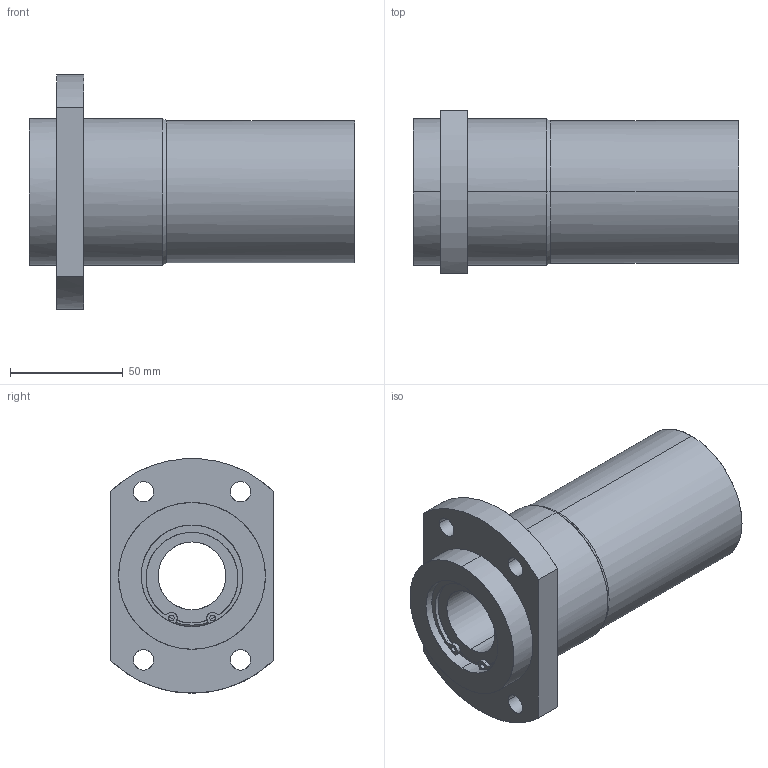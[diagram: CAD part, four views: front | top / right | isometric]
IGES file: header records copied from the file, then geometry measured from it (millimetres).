
Global section: file name: No Iges File Name specified; native system: AutoDesk Inventor R11.0; preprocessor: AutoDesk Inventor Iges Exporter R11.0; author: No Author specified; organization: No Organization specified; date: 20170922.133420; units: millimetre
Bounding box: 144 x 72 x 103.86 mm (x, y, z)
Surface area: 60171.9 mm2 (no closed solid volume)
Topology: 0 solids, 0 shells, 95 faces, 736 edges, 736 vertices
Faces by surface type: bspline 95
